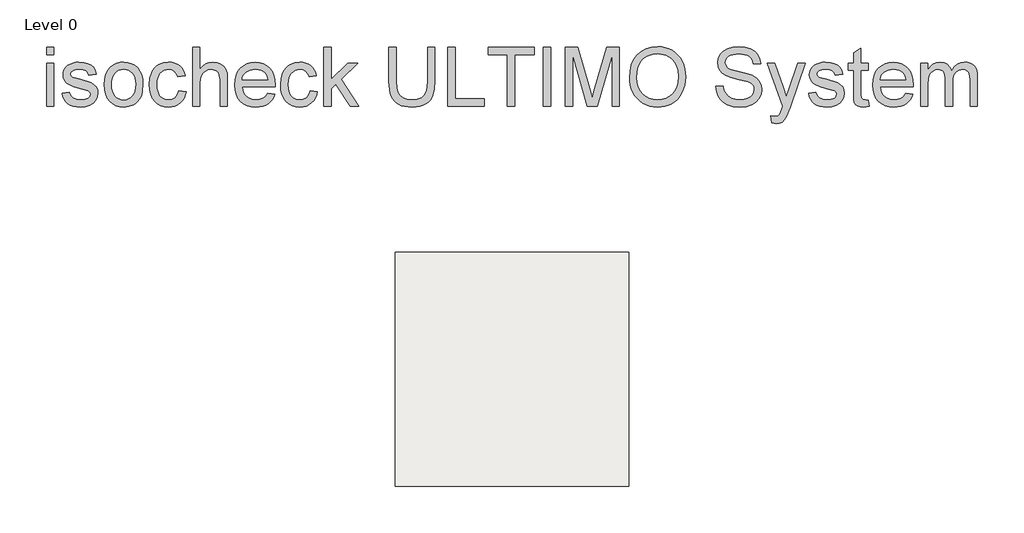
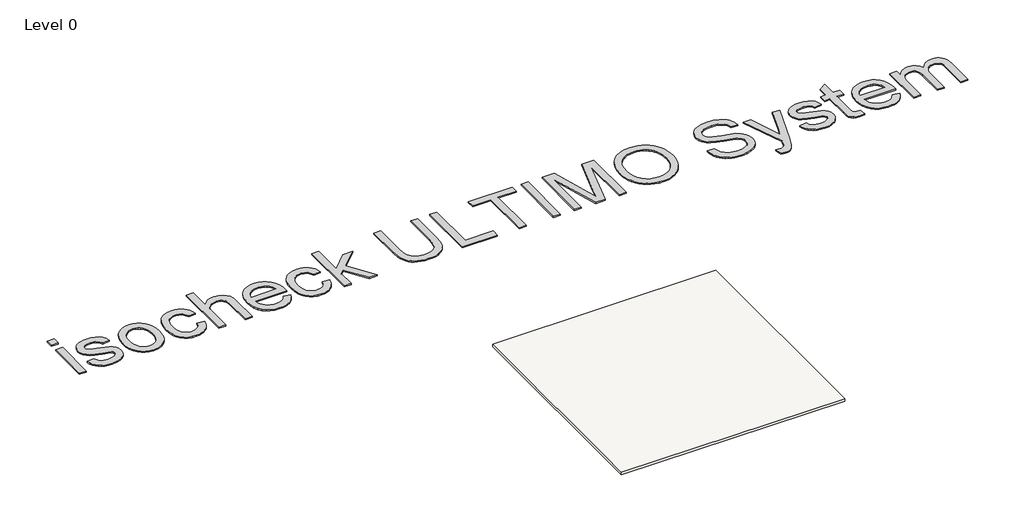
# One storey, incomplete: 1 covering, 1 proxy.
"""IFC4 building model written with IfcOpenShell, lengths in millimetres."""

import ifcopenshell
import ifcopenshell.guid

model = None  # the IFC model being written
_history = None  # IfcOwnerHistory: only IFC2X3 demands one
_inside = {}  # id of a spatial element -> (the spatial element, [elements in it])
_under = {}  # id of a project, library or spatial element -> (it, [spatial elements below it])
_declared = {}  # id of a project -> (the project, [libraries it declares])
_typed = {}  # id of a type object -> (the type object, [elements of that type])
_made_of = {}  # id of a material, layer set ... -> (it, [elements and type objects made of it])


def new_model(schema):
    """Start an empty IFC model of exactly this schema.

    Asked for "IFC4X3", IfcOpenShell would pick the latest addendum, in which some entities
    have other attributes; the version numbers below select the first issue.
    IFC2X3 requires an IfcOwnerHistory on every rooted entity: one is made here for all.
    """
    global model, _history
    if schema == "IFC4X3":
        model = ifcopenshell.file(schema_version=(4, 3, 0, 0))
    else:
        model = ifcopenshell.file(schema=schema)
    _inside.clear()
    _under.clear()
    _declared.clear()
    _typed.clear()
    _made_of.clear()
    _history = None
    if model.schema == "IFC2X3":
        org = make("IfcOrganization", Name="unknown")
        user = make(
            "IfcPersonAndOrganization",
            ThePerson=make("IfcPerson", FamilyName="unknown"),
            TheOrganization=org,
        )
        app = make(
            "IfcApplication",
            ApplicationDeveloper=org,
            Version="unknown",
            ApplicationFullName="unknown",
            ApplicationIdentifier="unknown",
        )
        _history = make(
            "IfcOwnerHistory",
            OwningUser=user,
            OwningApplication=app,
            ChangeAction="ADDED",
            CreationDate=0,
        )
    return model


def make(cls, **values):
    """One entity of the class cls with the attributes given. An attribute that is None is left unset."""
    return model.create_entity(
        cls, **{name: value for name, value in values.items() if value is not None}
    )


def rooted(cls, **values):
    """An entity with a GlobalId (a new one), such as an element, a storey or a relation."""
    return make(cls, GlobalId=ifcopenshell.guid.new(), OwnerHistory=_history, **values)


def si_unit(unit_type, name, prefix=None):
    """IfcSIUnit, for example si_unit("LENGTHUNIT", "METRE", prefix="MILLI")."""
    return make("IfcSIUnit", UnitType=unit_type, Prefix=prefix, Name=name)


def assignment(units):
    """IfcUnitAssignment: the units of a project."""
    return None if units is None else make("IfcUnitAssignment", Units=units)


def point(xyz):
    """IfcCartesianPoint."""
    return None if xyz is None else make("IfcCartesianPoint", Coordinates=xyz)


def direction(xyz):
    """IfcDirection."""
    return None if xyz is None else make("IfcDirection", DirectionRatios=xyz)


def frame(location, z_axis=None, x_axis=None):
    """IfcAxis2Placement3D, a coordinate frame: its origin and axes. An axis left out is left unset."""
    return make(
        "IfcAxis2Placement3D",
        Location=point(location),
        Axis=direction(z_axis),
        RefDirection=direction(x_axis),
    )


def origin():
    """The frame at (0, 0, 0) with its axes left unset."""
    return frame((0.0, 0.0, 0.0))


def origin_with_axes():
    """The frame at (0, 0, 0) with the z axis (0, 0, 1) and the x axis (1, 0, 0) written out."""
    return frame((0.0, 0.0, 0.0), z_axis=(0.0, 0.0, 1.0), x_axis=(1.0, 0.0, 0.0))


def place(relative_to, where):
    """IfcLocalPlacement: puts the frame where relative to a parent placement (None: the world)."""
    return make(
        "IfcLocalPlacement", PlacementRelTo=relative_to, RelativePlacement=where
    )


def context(
    kind, dimensions, precision=None, world=None, true_north=None, identifier=None
):
    """IfcGeometricRepresentationContext, for example the 3D "Model" context."""
    return make(
        "IfcGeometricRepresentationContext",
        ContextIdentifier=identifier,
        ContextType=kind,
        CoordinateSpaceDimension=dimensions,
        Precision=precision,
        WorldCoordinateSystem=world,
        TrueNorth=true_north,
    )


def project(units=None, contexts=None):
    """IfcProject with its units and contexts."""
    return rooted(
        "IfcProject",
        Name="project",
        RepresentationContexts=contexts,
        UnitsInContext=assignment(units),
    )


def spatial(cls, under=None, at=None, **own):
    """A site, building, storey or space (cls), placed at a placement, below another one or the project."""
    s = rooted(cls, ObjectPlacement=at, **own)
    if under is not None:
        _under.setdefault(under.id(), (under, []))[1].append(s)
    return s


def polyline(points):
    """IfcPolyline through the points."""
    return make("IfcPolyline", Points=[point(p) for p in points])


def outline(outer, holes=None, kind="AREA"):
    """IfcArbitraryClosedProfileDef: a profile drawn as a closed curve; with holes, ...WithVoids."""
    if holes is None:
        return make("IfcArbitraryClosedProfileDef", ProfileType=kind, OuterCurve=outer)
    return make(
        "IfcArbitraryProfileDefWithVoids",
        ProfileType=kind,
        OuterCurve=outer,
        InnerCurves=holes,
    )


def extrude(swept, where, along, depth):
    """IfcExtrudedAreaSolid: the profile swept, set in the frame where, extruded along a direction by depth."""
    return make(
        "IfcExtrudedAreaSolid",
        SweptArea=swept,
        Position=where,
        ExtrudedDirection=direction(along),
        Depth=depth,
    )


def shape(context_of_items, identifier, shape_type, items):
    """IfcShapeRepresentation: the items that make up one representation, for example the "Body"."""
    return make(
        "IfcShapeRepresentation",
        ContextOfItems=context_of_items,
        RepresentationIdentifier=identifier,
        RepresentationType=shape_type,
        Items=items,
    )


def made_of(thing, what):
    """Note that an element or type object is made of a material, layer set ...; save() writes the relation."""
    if what is not None:
        _made_of.setdefault(what.id(), (what, []))[1].append(thing)
    return thing


def element(
    cls,
    number,
    at=None,
    inside=None,
    cuts=None,
    type_object=None,
    material=None,
    context=None,
    identifier="Body",
    shape_type=None,
    held_by="IfcProductDefinitionShape",
    body=None,
    shapes=None,
    **own,
):
    """One element of the class cls, such as IfcWall. Its Tag is "e" and its number.

    at: its placement. inside: the storey or other place that contains it. cuts: it is an
    opening in that element (IfcRelVoidsElement). A single representation is given by context,
    identifier, shape_type and body (its items); several are given by shapes. held_by: the class
    of the entity that holds the representations. save() writes the other relations.
    """
    e = rooted(cls, Tag="e%d" % number, ObjectPlacement=at, **own)
    if body is not None:
        shapes = [shape(context, identifier, shape_type, body)]
    if shapes is not None:
        e.Representation = make(held_by, Representations=shapes)
    if inside is not None:
        _inside.setdefault(inside.id(), (inside, []))[1].append(e)
    if cuts is not None:
        rooted(
            "IfcRelVoidsElement", RelatingBuildingElement=cuts, RelatedOpeningElement=e
        )
    if type_object is not None:
        _typed.setdefault(type_object.id(), (type_object, []))[1].append(e)
    return made_of(e, material)


def aggregate(whole, parts):
    """IfcRelAggregates: a whole, such as a stair, and the parts it consists of."""
    return rooted("IfcRelAggregates", RelatingObject=whole, RelatedObjects=parts)


def save(model, path):
    """Write the relations noted so far, then the file.

    IfcRelAggregates (storeys below a building ...), IfcRelContainedInSpatialStructure (elements
    in a storey), IfcRelDefinesByType, IfcRelAssociatesMaterial and IfcRelDeclares: one each for
    every whole, place, type object, material and project.
    """
    for whole, parts in _under.values():
        aggregate(whole, parts)
    for where, things in _inside.values():
        rooted(
            "IfcRelContainedInSpatialStructure",
            RelatedElements=things,
            RelatingStructure=where,
        )
    for kind, things in _typed.values():
        rooted("IfcRelDefinesByType", RelatedObjects=things, RelatingType=kind)
    for what, things in _made_of.values():
        rooted("IfcRelAssociatesMaterial", RelatedObjects=things, RelatingMaterial=what)
    for by, libraries in _declared.values():
        rooted("IfcRelDeclares", RelatingContext=by, RelatedDefinitions=libraries)
    model.write(path)


model = new_model("IFC4")

# Units and contexts
model_context = context("Model", 3, world=origin())
ifc_project = project(units=[si_unit("LENGTHUNIT", "METRE", prefix="MILLI")], contexts=[model_context])

# Site, building, storey
site = spatial("IfcSite", under=ifc_project)
building = spatial("IfcBuilding", under=site)
storey = spatial("IfcBuildingStorey", under=building, Name="Level 0", Elevation=0.0)

# Proxy
placement = place(None, origin())
element("IfcBuildingElementProxy", 1, Name="500mm Arial", ObjectType="500mm Arial", at=placement, inside=storey, context=model_context, shape_type="SweptSolid", body=[
    extrude(outline(polyline([(-12285.6496364, 4582.4714319), (-12285.6496364, 4645.2566257), (-12222.8644426, 4645.2566257), (-12222.8644426, 4582.4714319), (-12285.6496364, 4582.4714319)])), origin_with_axes(), (0.0, 0.0, 1.0), 10.0),
    extrude(outline(polyline([(-12285.6496364, 4142.9750749), (-12285.6496364, 4511.8380888), (-12222.8644426, 4511.8380888), (-12222.8644426, 4142.9750749), (-12285.6496364, 4142.9750749)])), origin_with_axes(), (0.0, 0.0, 1.0), 10.0),
    extrude(outline(polyline([(-12152.2310995, 4252.8491642), (-12089.4459057, 4260.6973134), (-12079.5437486, 4233.8419278), (-12060.3832281, 4214.0989274), (-12031.8417166, 4201.9588215), (-11993.7965869, 4197.9121196), (-11956.2113098, 4201.6215963), (-11929.7851198, 4212.7500267), (-11914.150135, 4228.8755208), (-11908.9384734, 4247.5761889), (-11914.1807918, 4263.5790557), (-11929.9077471, 4275.7804752), (-11994.5323509, 4293.6840656), (-12051.8299717, 4310.2540838), (-12089.0780237, 4324.4022122), (-12113.0056818, 4339.8379276), (-12130.3421208, 4360.2707068), (-12140.8727429, 4384.3976343), (-12144.3829503, 4410.9157948), (-12141.5625217, 4435.2419917), (-12133.1012358, 4457.6981218), (-12119.7655135, 4477.395137), (-12102.3217755, 4493.443989), (-12084.9853365, 4503.5454155), (-12062.406579, 4512.0220298), (-12036.3022858, 4517.770186), (-12008.3892394, 4519.686238), (-11967.5236811, 4516.6052263), (-11931.9924118, 4507.3621912), (-11903.4202435, 4492.8615092), (-11883.4319884, 4474.0075569), (-11870.1882366, 4449.4054485), (-11861.849578, 4417.660298), (-11924.6347718, 4409.8121488), (-11932.5595632, 4429.5704776), (-11948.2405332, 4444.45437), (-11971.8309661, 4453.7893756), (-12003.4841461, 4456.9010442), (-12039.5365817, 4453.9273314), (-12063.5715387, 4445.006193), (-12077.091202, 4432.1303232), (-12081.5977565, 4417.292416), (-12079.7276896, 4407.6355136), (-12074.1174892, 4399.0209436), (-12064.5219005, 4391.3260785), (-12050.6956689, 4385.1640551), (-11996.6170156, 4371.7976759), (-11904.4625758, 4342.244489), (-11880.1210504, 4328.111689), (-11861.665637, 4308.7672274), (-11850.0313689, 4284.1497906), (-11846.1532795, 4254.1980648), (-11850.7058192, 4223.2346636), (-11864.3634383, 4194.1106723), (-11886.6049706, 4169.110025), (-11916.9092499, 4150.5166559), (-11953.5135085, 4138.9743583), (-11994.6549783, 4135.1269257), (-12028.4464724, 4136.9816641), (-12057.9613383, 4142.5458793), (-12083.199576, 4151.8195713), (-12104.1611855, 4164.80274), (-12121.2830267, 4181.4340719), (-12135.0019594, 4201.6522532), (-12145.3179837, 4225.457284), (-12152.2310995, 4252.8491642)])), origin_with_axes(), (0.0, 0.0, 1.0), 10.0),
    extrude(outline(polyline([(-11791.2162349, 4327.4065819), (-11787.8209907, 4375.1775918), (-11777.6352579, 4416.3420542), (-11760.6590367, 4450.8999691), (-11736.892327, 4478.8513365), (-11712.9646689, 4496.7166059), (-11686.5538073, 4509.4775126), (-11657.6597423, 4517.1340567), (-11626.2824738, 4519.686238), (-11591.6440847, 4516.5784016), (-11560.3242977, 4507.2548923), (-11532.3231129, 4491.7157101), (-11507.6405303, 4469.960855), (-11487.495159, 4442.726091), (-11473.105608, 4410.7471822), (-11464.4718774, 4374.0241284), (-11461.5939673, 4332.5569298), (-11466.6830015, 4269.1279425), (-11473.0442944, 4243.0926271), (-11481.9501043, 4220.8434306), (-11493.2893004, 4201.6254285), (-11506.9507516, 4184.6836962), (-11522.9344578, 4170.0182337), (-11541.2404192, 4157.6290411), (-11581.9680218, 4140.7524546), (-11626.2824738, 4135.1269257), (-11661.4267006, 4138.2232658), (-11693.0377275, 4147.5122862), (-11721.1155543, 4162.9939869), (-11745.6601812, 4184.6683677), (-11765.5909547, 4212.1675469), (-11779.8272215, 4245.1236423), (-11788.3689816, 4283.5366539), (-11791.2162349, 4327.4065819)]), holes=[polyline([(-11728.4310411, 4327.5292092), (-11726.6146237, 4297.0754778), (-11721.1653717, 4270.7067694), (-11712.0832849, 4248.4230839), (-11699.3683635, 4230.2244215), (-11683.9019913, 4216.0877894), (-11666.5655522, 4205.990195), (-11647.3590464, 4199.9316384), (-11626.2824738, 4197.9121196), (-11605.3132, 4199.9431347), (-11586.1833363, 4206.0361803), (-11568.8928825, 4216.1912562), (-11553.4418387, 4230.4083625), (-11540.7269173, 4248.7871338), (-11531.6448305, 4271.4272049), (-11526.1955784, 4298.3285758), (-11524.3791611, 4329.4912465), (-11526.2070748, 4358.9792877), (-11531.6908157, 4384.6582174), (-11540.8303841, 4406.5280356), (-11553.6257797, 4424.5887423), (-11569.1343051, 4438.7253743), (-11586.4132625, 4448.8229687), (-11605.4626521, 4454.8815253), (-11626.2824738, 4456.9010442), (-11647.3590464, 4454.8891895), (-11666.5655522, 4448.8536255), (-11683.9019913, 4438.7943522), (-11699.3683635, 4424.7113696), (-11712.0832849, 4406.5663566), (-11721.1653717, 4384.3209922), (-11726.6146237, 4357.9752764), (-11728.4310411, 4327.5292092)])]), origin_with_axes(), (0.0, 0.0, 1.0), 10.0),
    extrude(outline(polyline([(-11155.5161473, 4276.3936119), (-11092.7309534, 4268.5454626), (-11099.559763, 4238.9194657), (-11110.236005, 4212.7040415), (-11124.7596796, 4189.8991899), (-11143.1307868, 4170.5049109), (-11164.5752414, 4155.0270424), (-11188.3189585, 4143.971422), (-11214.3619381, 4137.3380498), (-11242.7041801, 4135.1269257), (-11277.9173848, 4138.2117695), (-11309.4900907, 4147.466301), (-11337.4222976, 4162.89052), (-11361.7140056, 4184.4844267), (-11381.3765318, 4211.841818), (-11395.4211934, 4244.5564909), (-11403.8479903, 4282.6284453), (-11406.6569226, 4326.0576812), (-11401.8591283, 4381.9297592), (-11387.4657452, 4430.3522268), (-11376.6132264, 4451.3023401), (-11363.2468472, 4469.4550173), (-11347.3666077, 4484.8102584), (-11328.972508, 4497.3680636), (-11287.9689939, 4514.1066944), (-11243.5625714, 4519.686238), (-11215.7070066, 4517.770186), (-11190.5109221, 4512.0220298), (-11167.9743177, 4502.4417695), (-11148.0971937, 4489.0294051), (-11131.2167751, 4472.0915049), (-11117.670287, 4451.9346372), (-11107.4577295, 4428.5588021), (-11100.5791027, 4401.9639996), (-11163.3642965, 4394.1158503), (-11174.7533099, 4421.5077305), (-11192.4882878, 4441.143432), (-11215.5882114, 4452.9616411), (-11243.0720621, 4456.9010442), (-11264.4053857, 4454.9619995), (-11283.6463805, 4449.1448654), (-11300.7950464, 4439.449642), (-11315.8513835, 4425.8763292), (-11328.1102846, 4408.1106946), (-11336.8666425, 4385.8385054), (-11342.1204572, 4359.0597619), (-11343.8717288, 4327.7744639), (-11342.1587783, 4296.017817), (-11337.0199266, 4268.928673), (-11328.4551739, 4246.5070319), (-11316.4645202, 4228.7528935), (-11301.7070872, 4215.2600549), (-11284.841997, 4205.622313), (-11265.8692495, 4199.8396679), (-11244.7888448, 4197.9121196), (-11212.2772734, 4202.7252423), (-11185.6211572, 4217.1646106), (-11174.8414483, 4228.0861074), (-11166.2307104, 4241.5981065), (-11155.5161473, 4276.3936119)])), origin_with_axes(), (0.0, 0.0, 1.0), 10.0),
    extrude(outline(polyline([(-11037.7939088, 4142.9750749), (-11037.7939088, 4645.2566257), (-10975.008715, 4645.2566257), (-10975.008715, 4460.5798641), (-10951.9471124, 4486.4389027), (-10926.0497528, 4504.9096445), (-10897.3166361, 4515.9920896), (-10865.7477624, 4519.686238), (-10827.8252601, 4515.6548645), (-10795.2370467, 4503.5607439), (-10769.5772775, 4484.3542381), (-10752.4401079, 4458.9857088), (-10742.7832055, 4424.1288898), (-10739.5642381, 4376.4575146), (-10739.5642381, 4142.9750749), (-10802.3494319, 4142.9750749), (-10802.3494319, 4369.958266), (-10807.3464957, 4409.2603258), (-10813.5928254, 4424.2668455), (-10822.337687, 4436.1770251), (-10833.3741468, 4445.2437834), (-10846.4952713, 4451.7200394), (-10878.9915142, 4456.9010442), (-10905.5250031, 4453.4061652), (-10930.4336799, 4442.9215284), (-10951.0657284, 4426.4588091), (-10964.7693328, 4405.0296828), (-10972.4488694, 4376.5494851), (-10975.008715, 4338.933551), (-10975.008715, 4142.9750749), (-11037.7939088, 4142.9750749)])), origin_with_axes(), (0.0, 0.0, 1.0), 10.0),
    extrude(outline(polyline([(-10394.9814359, 4252.8491642), (-10333.4225154, 4245.0010149), (-10342.8609878, 4220.3452571), (-10355.602734, 4198.6172267), (-10371.6477539, 4179.8169239), (-10390.9960476, 4163.9443487), (-10413.4483456, 4151.3367261), (-10438.8053786, 4142.3312815), (-10467.0671464, 4136.9280147), (-10498.2336492, 4135.1269257), (-10537.1908197, 4138.2347622), (-10571.9020187, 4147.5582715), (-10602.3672465, 4163.0974537), (-10628.5865028, 4184.8523087), (-10649.6707397, 4212.2173642), (-10664.7309089, 4244.5871477), (-10673.7670104, 4281.9616591), (-10676.7790442, 4324.3408986), (-10673.7363535, 4368.157177), (-10664.6082815, 4406.7771223), (-10649.3948282, 4440.2007344), (-10628.0959935, 4468.4280133), (-10601.945715, 4490.8534866), (-10572.1779302, 4506.8716818), (-10538.7926392, 4516.482599), (-10501.7898418, 4519.686238), (-10465.9788289, 4516.4902632), (-10433.593717, 4506.9023387), (-10404.6345062, 4490.9224645), (-10379.1011964, 4468.5506407), (-10358.2583822, 4440.3846754), (-10343.3706577, 4407.022377), (-10334.438023, 4368.4637454), (-10331.4604781, 4324.7087806), (-10331.8283601, 4307.7862088), (-10613.9938504, 4307.7862088), (-10610.3571836, 4282.7319121), (-10603.1260031, 4260.7892839), (-10592.300309, 4241.9583243), (-10577.8801012, 4226.2390332), (-10560.6624574, 4213.8460085), (-10541.4444552, 4204.993848), (-10520.2260947, 4199.6825517), (-10497.0073759, 4197.9121196), (-10463.591428, 4201.1924007), (-10435.4484554, 4211.0332441), (-10412.578458, 4228.0477863), (-10394.9814359, 4252.8491642)]), holes=[polyline([(-10613.9938504, 4370.5714026), (-10394.2456719, 4370.5714026), (-10402.7376146, 4403.7420959), (-10419.3842749, 4427.4704846), (-10436.5061161, 4440.3463544), (-10455.9885334, 4449.5434043), (-10477.8315269, 4455.0616342), (-10502.0350965, 4456.9010442), (-10544.3568544, 4451.0302607), (-10562.7701146, 4443.6917813), (-10579.3516292, 4433.4179101), (-10593.2659992, 4420.6838282), (-10603.6778261, 4405.9647163), (-10610.5871098, 4389.2605744), (-10613.9938504, 4370.5714026)])]), origin_with_axes(), (0.0, 0.0, 1.0), 10.0),
    extrude(outline(polyline([(-10033.2308073, 4276.3936119), (-9970.4456135, 4268.5454626), (-9977.274423, 4238.9194657), (-9987.9506651, 4212.7040415), (-10002.4743397, 4189.8991899), (-10020.8454468, 4170.5049109), (-10042.2899014, 4155.0270424), (-10066.0336185, 4143.971422), (-10092.0765981, 4137.3380498), (-10120.4188402, 4135.1269257), (-10155.6320449, 4138.2117695), (-10187.2047507, 4147.466301), (-10215.1369576, 4162.89052), (-10239.4286656, 4184.4844267), (-10259.0911918, 4211.841818), (-10273.1358534, 4244.5564909), (-10281.5626504, 4282.6284453), (-10284.3715827, 4326.0576812), (-10279.5737883, 4381.9297592), (-10265.1804053, 4430.3522268), (-10254.3278864, 4451.3023401), (-10240.9615073, 4469.4550173), (-10225.0812678, 4484.8102584), (-10206.687168, 4497.3680636), (-10165.683654, 4514.1066944), (-10121.2772315, 4519.686238), (-10093.4216667, 4517.770186), (-10068.2255821, 4512.0220298), (-10045.6889778, 4502.4417695), (-10025.8118537, 4489.0294051), (-10008.9314351, 4472.0915049), (-9995.3849471, 4451.9346372), (-9985.1723896, 4428.5588021), (-9978.2937627, 4401.9639996), (-10041.0789565, 4394.1158503), (-10052.46797, 4421.5077305), (-10070.2029478, 4441.143432), (-10093.3028714, 4452.9616411), (-10120.7867222, 4456.9010442), (-10142.1200458, 4454.9619995), (-10161.3610405, 4449.1448654), (-10178.5097065, 4439.449642), (-10193.5660435, 4425.8763292), (-10205.8249446, 4408.1106946), (-10214.5813025, 4385.8385054), (-10219.8351173, 4359.0597619), (-10221.5863888, 4327.7744639), (-10219.8734383, 4296.017817), (-10214.7345867, 4268.928673), (-10206.169834, 4246.5070319), (-10194.1791802, 4228.7528935), (-10179.4217472, 4215.2600549), (-10162.556657, 4205.622313), (-10143.5839096, 4199.8396679), (-10122.5035048, 4197.9121196), (-10089.9919335, 4202.7252423), (-10063.3358173, 4217.1646106), (-10052.5561084, 4228.0861074), (-10043.9453704, 4241.5981065), (-10033.2308073, 4276.3936119)])), origin_with_axes(), (0.0, 0.0, 1.0), 10.0),
    extrude(outline(polyline([(-9915.5085689, 4142.9750749), (-9915.5085689, 4645.2566257), (-9852.723375, 4645.2566257), (-9852.723375, 4375.3538686), (-9711.9471982, 4511.8380888), (-9625.1270473, 4511.8380888), (-9767.6200068, 4373.6370859), (-9617.2788981, 4142.9750749), (-9690.6100425, 4142.9750749), (-9812.6242375, 4329.9817558), (-9852.723375, 4291.1088917), (-9852.723375, 4142.9750749), (-9915.5085689, 4142.9750749)])), origin_with_axes(), (0.0, 0.0, 1.0), 10.0),
    extrude(outline(polyline([(-9028.6677058, 4645.2566257), (-8965.882512, 4645.2566257), (-8965.882512, 4355.4882408), (-8970.1438117, 4287.6293411), (-8982.9277111, 4235.3747694), (-8993.1594291, 4214.1832336), (-9006.8093839, 4195.0610341), (-9023.8775757, 4178.0081708), (-9044.3640043, 4163.0246437), (-9068.2916624, 4150.8193921), (-9095.6835426, 4142.1013552), (-9126.5396449, 4136.8705331), (-9160.8599694, 4135.1269257), (-9194.3333989, 4136.6444389), (-9224.6108535, 4141.1969786), (-9251.6923333, 4148.7845448), (-9275.5778382, 4159.4071374), (-9296.2712005, 4172.9076402), (-9313.7762521, 4189.1289369), (-9328.0929931, 4208.0710276), (-9339.2214234, 4229.7339121), (-9347.5639141, 4254.8610188), (-9353.522836, 4284.1957758), (-9358.2899735, 4355.4882408), (-9358.2899735, 4645.2566257), (-9295.5047797, 4645.2566257), (-9295.5047797, 4357.6955328), (-9292.4084395, 4301.2716318), (-9283.1194191, 4261.9849004), (-9266.2888179, 4234.7769612), (-9240.567735, 4214.5894367), (-9207.0291598, 4202.0814488), (-9166.7460813, 4197.9121196), (-9132.1421812, 4199.9737916), (-9102.8878983, 4206.1588076), (-9078.9832329, 4216.4671677), (-9060.4281847, 4230.8988718), (-9046.5329752, 4251.1936952), (-9036.6078255, 4279.0914132), (-9030.6527357, 4314.5920257), (-9028.6677058, 4357.6955328), (-9028.6677058, 4645.2566257)])), origin_with_axes(), (0.0, 0.0, 1.0), 10.0),
    extrude(outline(polyline([(-8856.0084227, 4142.9750749), (-8856.0084227, 4645.2566257), (-8793.2232289, 4645.2566257), (-8793.2232289, 4205.7602688), (-8542.0824535, 4205.7602688), (-8542.0824535, 4142.9750749), (-8856.0084227, 4142.9750749)])), origin_with_axes(), (0.0, 0.0, 1.0), 10.0),
    extrude(outline(polyline([(-8345.8787228, 4142.9750749), (-8345.8787228, 4582.4714319), (-8510.6898566, 4582.4714319), (-8510.6898566, 4645.2566257), (-8118.2823951, 4645.2566257), (-8118.2823951, 4582.4714319), (-8283.0935289, 4582.4714319), (-8283.0935289, 4142.9750749), (-8345.8787228, 4142.9750749)])), origin_with_axes(), (0.0, 0.0, 1.0), 10.0),
    extrude(outline(polyline([(-8039.8009028, 4142.9750749), (-8039.8009028, 4645.2566257), (-7977.0157089, 4645.2566257), (-7977.0157089, 4142.9750749), (-8039.8009028, 4142.9750749)])), origin_with_axes(), (0.0, 0.0, 1.0), 10.0),
    extrude(outline(polyline([(-7851.4453213, 4142.9750749), (-7851.4453213, 4645.2566257), (-7743.410642, 4645.2566257), (-7640.648938, 4291.231519), (-7619.924919, 4217.287238), (-7597.4841172, 4297.3628856), (-7496.4391959, 4645.2566257), (-7388.4045167, 4645.2566257), (-7388.4045167, 4142.9750749), (-7451.1897105, 4142.9750749), (-7451.1897105, 4582.4714319), (-7577.3732348, 4142.9750749), (-7662.4766031, 4142.9750749), (-7788.6601274, 4582.4714319), (-7788.6601274, 4142.9750749), (-7851.4453213, 4142.9750749)])), origin_with_axes(), (0.0, 0.0, 1.0), 10.0),
    extrude(outline(polyline([(-7302.0748751, 4387.4939744), (-7297.8902174, 4446.4087431), (-7285.3362443, 4498.5636801), (-7264.4129559, 4543.9587855), (-7235.120352, 4582.5940592), (-7199.2135364, 4613.4424973), (-7158.4476128, 4635.477096), (-7112.8225812, 4648.6978552), (-7062.3384416, 4653.1047749), (-7028.5469475, 4651.0354387), (-6996.4569076, 4644.82743), (-6966.068322, 4634.4807489), (-6937.3811906, 4619.9953954), (-6911.2002552, 4601.8082292), (-6888.3302579, 4580.3561104), (-6868.7711985, 4555.6390388), (-6852.523077, 4527.6570146), (-6839.7545061, 4497.0461669), (-6830.6340983, 4464.4426251), (-6825.1618536, 4429.8463891), (-6823.3377721, 4393.257459), (-6825.2576562, 4356.1856838), (-6831.0173087, 4321.1219311), (-6840.6167295, 4288.066201), (-6854.0559187, 4257.0184935), (-6871.0168115, 4228.7988787), (-6891.1813433, 4204.2274271), (-6914.5495142, 4183.3041387), (-6941.1213242, 4166.0290133), (-6969.8506087, 4152.50935), (-6999.6912035, 4142.8524476), (-7030.6431084, 4137.0583062), (-7062.7063236, 4135.1269257), (-7097.0879617, 4137.2614077), (-7129.599533, 4143.6648537), (-7160.2410376, 4154.3372637), (-7189.0124753, 4169.2786376), (-7215.1627538, 4187.9103278), (-7237.9407806, 4209.6536866), (-7257.3465559, 4234.5087139), (-7273.3800795, 4262.4754097), (-7285.9340526, 4292.4309676), (-7294.9011762, 4323.252581), (-7300.2814504, 4354.9402499), (-7302.0748751, 4387.4939744)]), holes=[polyline([(-7239.2896813, 4386.8808378), (-7236.151188, 4345.2565228), (-7226.7357082, 4308.3073749), (-7211.0432418, 4276.0333941), (-7189.0737889, 4248.4345802), (-7162.3678553, 4226.3310037), (-7132.4659469, 4210.5427347), (-7099.3680637, 4201.0697734), (-7063.0742056, 4197.9121196), (-7026.1595466, 4201.1004302), (-6992.6707888, 4210.6653621), (-6962.607932, 4226.6069152), (-6935.9709763, 4248.9250896), (-6914.1624717, 4277.1063832), (-6898.5849685, 4310.6372943), (-6889.2384666, 4349.5178226), (-6886.1229659, 4393.7479683), (-6891.4572548, 4449.3288064), (-6907.4601216, 4497.3680636), (-6919.3588049, 4518.2568632), (-6933.717699, 4536.654795), (-6950.536804, 4552.5618592), (-6969.8161198, 4565.9780557), (-6990.9578382, 4576.6274731), (-7013.364151, 4584.2341997), (-7037.0350581, 4588.7982358), (-7061.9705596, 4590.3195811), (-7097.0036554, 4587.3880214), (-7129.5075625, 4578.5933425), (-7159.4822809, 4563.9355442), (-7186.9278106, 4543.4146267), (-7209.836129, 4516.041907), (-7226.1992136, 4480.8287023), (-7236.0170644, 4437.7750125), (-7239.2896813, 4386.8808378)])]), origin_with_axes(), (0.0, 0.0, 1.0), 10.0),
    extrude(outline(polyline([(-6564.3488475, 4315.634358), (-6501.5636536, 4315.634358), (-6494.3592979, 4280.7928674), (-6481.3301439, 4252.7878505), (-6461.0046636, 4230.5616466), (-6431.9113292, 4213.056595), (-6396.349403, 4201.6982384), (-6356.6181475, 4197.9121196), (-6321.6387011, 4200.7785334), (-6291.012525, 4209.3777751), (-6266.1958188, 4222.9894089), (-6248.6447819, 4240.8929993), (-6238.2061303, 4261.4484058), (-6234.7265798, 4283.0154878), (-6237.3324106, 4304.0307468), (-6245.149903, 4322.1949203), (-6261.0301424, 4337.6919493), (-6287.8242144, 4350.7057749), (-6379.2428902, 4374.6794182), (-6439.2536407, 4390.5443293), (-6477.6513239, 4405.6428195), (-6508.9059651, 4426.7653774), (-6531.0555269, 4452.3638329), (-6544.2532935, 4481.886363), (-6548.652549, 4514.7811447), (-6543.2109612, 4551.5540158), (-6526.8861976, 4585.8436835), (-6514.7499239, 4601.3713694), (-6500.1074541, 4614.9063611), (-6463.3039261, 4635.9982622), (-6419.1274299, 4648.8281467), (-6370.2297813, 4653.1047749), (-6317.254774, 4648.6288773), (-6270.9016426, 4635.2011845), (-6232.8258561, 4613.097608), (-6217.5127681, 4598.8958301), (-6204.6828835, 4582.5940592), (-6186.8712636, 4545.5912618), (-6179.7895352, 4503.9899395), (-6242.574729, 4503.9899395), (-6246.7747151, 4524.0241799), (-6254.1016982, 4541.4525894), (-6264.5556782, 4556.2751681), (-6278.1366552, 4568.491916), (-6295.097548, 4578.0415195), (-6315.6912756, 4584.8626648), (-6367.7772347, 4590.3195811), (-6421.0894672, 4584.9239785), (-6441.4685969, 4578.1794752), (-6457.6630689, 4568.7371707), (-6470.0024441, 4557.3864783), (-6478.8162836, 4544.9168115), (-6484.1045873, 4531.3281703), (-6485.8673552, 4516.6205547), (-6480.8702914, 4492.4936272), (-6465.8791001, 4473.087852), (-6452.1141821, 4464.4579535), (-6430.4398012, 4455.7360845), (-6363.3626508, 4438.0164351), (-6294.139522, 4421.1858338), (-6252.2622882, 4406.5012108), (-6216.4704358, 4383.723184), (-6191.5004453, 4355.6108682), (-6176.8311508, 4322.4708318), (-6171.9413859, 4284.6096431), (-6177.5669148, 4245.9053915), (-6194.4435013, 4209.5004024), (-6221.8813668, 4178.1691192), (-6259.1907325, 4154.6859851), (-6304.0570075, 4140.0166906), (-6354.1656009, 4135.1269257), (-6415.6785362, 4140.399901), (-6442.3538129, 4146.9911201), (-6466.3082957, 4156.2188268), (-6487.6876046, 4168.0983495), (-6506.6373595, 4182.6450168), (-6523.1575603, 4199.8588285), (-6537.2482071, 4219.7397846), (-6548.5988995, 4241.6440917), (-6556.8992371, 4264.9279564), (-6562.1492197, 4289.5913784), (-6564.3488475, 4315.634358)])), origin_with_axes(), (0.0, 0.0, 1.0), 10.0),
    extrude(outline(polyline([(-6085.6117444, 4001.7083888), (-6093.4598936, 4062.1636633), (-6061.5767874, 4056.6454334), (-6044.8074998, 4058.3775445), (-6031.7783458, 4063.5738777), (-6021.6309341, 4071.866551), (-6013.5068733, 4082.8876824), (-5996.3390469, 4129.1181865), (-5991.4339536, 4144.3239756), (-6124.8524906, 4511.8380888), (-6058.6337314, 4511.8380888), (-5987.877761, 4307.0504448), (-5963.2296673, 4225.1353872), (-5938.5815737, 4297.4855129), (-5865.8635659, 4511.8380888), (-5800.1353161, 4511.8380888), (-5928.5261325, 4134.1459071), (-5961.8807667, 4052.2308495), (-5978.9566226, 4026.080571), (-5998.3010842, 4007.9623827), (-6020.7725428, 3997.3857754), (-6047.2293896, 3993.8602396), (-6065.4088915, 3995.8222769), (-6085.6117444, 4001.7083888)])), origin_with_axes(), (0.0, 0.0, 1.0), 10.0),
    extrude(outline(polyline([(-5771.6857752, 4252.8491642), (-5708.9005813, 4260.6973134), (-5698.9984243, 4233.8419278), (-5679.8379037, 4214.0989274), (-5651.2963923, 4201.9588215), (-5613.2512626, 4197.9121196), (-5575.6659854, 4201.6215963), (-5549.2397954, 4212.7500267), (-5533.6048106, 4228.8755208), (-5528.393149, 4247.5761889), (-5533.6354675, 4263.5790557), (-5549.3624228, 4275.7804752), (-5613.9870266, 4293.6840656), (-5671.2846473, 4310.2540838), (-5708.5326993, 4324.4022122), (-5732.4603574, 4339.8379276), (-5749.7967965, 4360.2707068), (-5760.3274186, 4384.3976343), (-5763.837626, 4410.9157948), (-5761.0171973, 4435.2419917), (-5752.5559114, 4457.6981218), (-5739.2201891, 4477.395137), (-5721.7764512, 4493.443989), (-5704.4400121, 4503.5454155), (-5681.8612547, 4512.0220298), (-5655.7569615, 4517.770186), (-5627.8439151, 4519.686238), (-5586.9783568, 4516.6052263), (-5551.4470874, 4507.3621912), (-5522.8749191, 4492.8615092), (-5502.886664, 4474.0075569), (-5489.6429122, 4449.4054485), (-5481.3042537, 4417.660298), (-5544.0894475, 4409.8121488), (-5552.0142388, 4429.5704776), (-5567.6952089, 4444.45437), (-5591.2856418, 4453.7893756), (-5622.9388218, 4456.9010442), (-5658.9912573, 4453.9273314), (-5683.0262143, 4445.006193), (-5696.5458777, 4432.1303232), (-5701.0524321, 4417.292416), (-5699.1823653, 4407.6355136), (-5693.5721649, 4399.0209436), (-5683.9765762, 4391.3260785), (-5670.1503445, 4385.1640551), (-5616.0716912, 4371.7976759), (-5523.9172514, 4342.244489), (-5499.5757261, 4328.111689), (-5481.1203127, 4308.7672274), (-5469.4860446, 4284.1497906), (-5465.6079552, 4254.1980648), (-5470.1604949, 4223.2346636), (-5483.818114, 4194.1106723), (-5506.0596462, 4169.110025), (-5536.3639256, 4150.5166559), (-5572.9681841, 4138.9743583), (-5614.1096539, 4135.1269257), (-5647.901148, 4136.9816641), (-5677.4160139, 4142.5458793), (-5702.6542516, 4151.8195713), (-5723.6158611, 4164.80274), (-5740.7377023, 4181.4340719), (-5754.4566351, 4201.6522532), (-5764.7726594, 4225.457284), (-5771.6857752, 4252.8491642)])), origin_with_axes(), (0.0, 0.0, 1.0), 10.0),
    extrude(outline(polyline([(-5261.5560752, 4195.3369456), (-5253.707926, 4141.135665), (-5300.674194, 4135.1269257), (-5330.8098608, 4137.7327565), (-5353.2813193, 4145.5502489), (-5369.1615588, 4157.5983843), (-5379.5235683, 4172.8961439), (-5385.2257393, 4199.1690497), (-5387.1264629, 4244.1426236), (-5387.1264629, 4449.0528949), (-5434.2153583, 4449.0528949), (-5434.2153583, 4511.8380888), (-5387.1264629, 4511.8380888), (-5387.1264629, 4601.4786683), (-5324.341269, 4638.3894951), (-5324.341269, 4511.8380888), (-5261.5560752, 4511.8380888), (-5261.5560752, 4449.0528949), (-5324.341269, 4449.0528949), (-5324.341269, 4245.9820336), (-5321.0303311, 4213.608418), (-5310.3004396, 4202.1427625), (-5288.9019702, 4197.9121196), (-5261.5560752, 4195.3369456)])), origin_with_axes(), (0.0, 0.0, 1.0), 10.0),
    extrude(outline(polyline([(-4940.5177207, 4252.8491642), (-4878.9588002, 4245.0010149), (-4888.3972727, 4220.3452571), (-4901.1390188, 4198.6172267), (-4917.1840388, 4179.8169239), (-4936.5323325, 4163.9443487), (-4958.9846305, 4151.3367261), (-4984.3416634, 4142.3312815), (-5012.6034313, 4136.9280147), (-5043.7699341, 4135.1269257), (-5082.7271045, 4138.2347622), (-5117.4383036, 4147.5582715), (-5147.9035313, 4163.0974537), (-5174.1227877, 4184.8523087), (-5195.2070245, 4212.2173642), (-5210.2671937, 4244.5871477), (-5219.3032952, 4281.9616591), (-5222.3153291, 4324.3408986), (-5219.2726384, 4368.157177), (-5210.1445664, 4406.7771223), (-5194.931113, 4440.2007344), (-5173.6322784, 4468.4280133), (-5147.4819999, 4490.8534866), (-5117.7142151, 4506.8716818), (-5084.328924, 4516.482599), (-5047.3261267, 4519.686238), (-5011.5151137, 4516.4902632), (-4979.1300018, 4506.9023387), (-4950.170791, 4490.9224645), (-4924.6374813, 4468.5506407), (-4903.794667, 4440.3846754), (-4888.9069425, 4407.022377), (-4879.9743078, 4368.4637454), (-4876.9967629, 4324.7087806), (-4877.3646449, 4307.7862088), (-5159.5301352, 4307.7862088), (-5155.8934684, 4282.7319121), (-5148.6622879, 4260.7892839), (-5137.8365938, 4241.9583243), (-5123.416386, 4226.2390332), (-5106.1987422, 4213.8460085), (-5086.9807401, 4204.993848), (-5065.7623796, 4199.6825517), (-5042.5436607, 4197.9121196), (-5009.1277128, 4201.1924007), (-4980.9847402, 4211.0332441), (-4958.1147429, 4228.0477863), (-4940.5177207, 4252.8491642)]), holes=[polyline([(-5159.5301352, 4370.5714026), (-4939.7819568, 4370.5714026), (-4948.2738995, 4403.7420959), (-4964.9205598, 4427.4704846), (-4982.042401, 4440.3463544), (-5001.5248183, 4449.5434043), (-5023.3678117, 4455.0616342), (-5047.5713813, 4456.9010442), (-5089.8931392, 4451.0302607), (-5108.3063995, 4443.6917813), (-5124.887914, 4433.4179101), (-5138.802284, 4420.6838282), (-5149.2141109, 4405.9647163), (-5156.1233947, 4389.2605744), (-5159.5301352, 4370.5714026)])]), origin_with_axes(), (0.0, 0.0, 1.0), 10.0),
    extrude(outline(polyline([(-4814.2115691, 4142.9750749), (-4814.2115691, 4511.8380888), (-4751.4263752, 4511.8380888), (-4751.4263752, 4451.1375596), (-4732.5417661, 4479.0199491), (-4708.2615545, 4500.8629426), (-4679.4134747, 4514.9804142), (-4646.8252613, 4519.686238), (-4611.9071286, 4514.8884437), (-4583.9174401, 4500.4950606), (-4563.00948, 4477.4564506), (-4549.3365325, 4446.7229756), (-4526.4512068, 4478.6444029), (-4500.3469135, 4501.4454224), (-4471.0236528, 4515.1260341), (-4438.4814247, 4519.686238), (-4413.3466538, 4517.7893465), (-4391.2852304, 4512.0986719), (-4372.2971545, 4502.6142142), (-4356.3824261, 4489.3359734), (-4343.8016283, 4472.1106654), (-4334.8153441, 4450.785006), (-4329.4235736, 4425.3589952), (-4327.6263168, 4395.832633), (-4327.6263168, 4142.9750749), (-4390.4115106, 4142.9750749), (-4390.4115106, 4368.85462), (-4391.8677102, 4400.1705748), (-4396.2363089, 4421.2778043), (-4404.4216833, 4435.732501), (-4417.3282099, 4447.0908576), (-4433.928885, 4454.4484975), (-4453.1967045, 4456.9010442), (-4470.9891639, 4455.3298815), (-4487.2104606, 4450.6163934), (-4501.8605946, 4442.76058), (-4514.939566, 4431.7624412), (-4525.6962822, 4417.3000802), (-4533.379651, 4399.0516004), (-4537.9896723, 4377.0170018), (-4539.526346, 4351.1962842), (-4539.526346, 4142.9750749), (-4602.3115398, 4142.9750749), (-4602.3115398, 4375.8443779), (-4605.9443746, 4411.3449904), (-4616.8428787, 4436.6675344), (-4625.2696756, 4445.5196949), (-4636.0187277, 4451.8426667), (-4664.483597, 4456.9010442), (-4688.6718382, 4453.5287925), (-4710.9593558, 4443.4120377), (-4729.3534555, 4426.7960342), (-4741.8614434, 4403.9260369), (-4749.0351423, 4372.1962148), (-4751.4263752, 4329.0007372), (-4751.4263752, 4142.9750749), (-4814.2115691, 4142.9750749)])), origin_with_axes(), (0.0, 0.0, 1.0), 10.0),
])

# Covering
element("IfcCovering", 2, ObjectType="isocheck ULTIMO - 1200mm x 600mm x 24mm", at=placement, inside=storey, context=model_context, shape_type="SweptSolid", body=[
    extrude(outline(polyline([(-7306.6379766, 2892.9750749), (-7306.6379766, 892.9750749), (-9306.6379766, 892.9750749), (-9306.6379766, 2892.9750749), (-7306.6379766, 2892.9750749)])), frame((0.0, 0.0, -24.0), z_axis=(0.0, 0.0, 1.0), x_axis=(1.0, 0.0, 0.0)), (0.0, 0.0, 1.0), 24.0),
])

save(model, "model.ifc")
